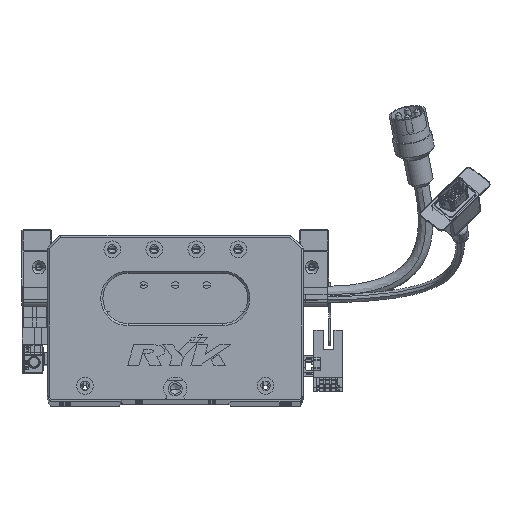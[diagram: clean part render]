
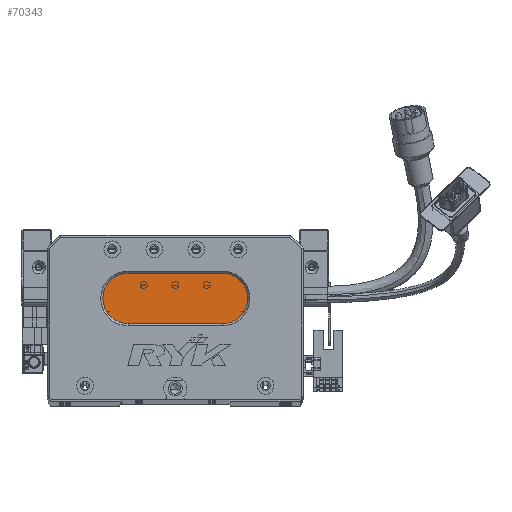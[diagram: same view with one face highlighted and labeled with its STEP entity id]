
A CAD part, top view. The second image highlights one B-rep face of the part: STEP entity #70343.
In plain terms, the highlighted planar face has unit normal (0, 0, 1) as drawn and (0, 0, -1) by its records, which use the part's own axes.
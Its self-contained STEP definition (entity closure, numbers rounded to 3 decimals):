
#372 = AXIS2_PLACEMENT_3D ( 'NONE', #36595, #36286, #43676 ) ;
#5378 = FACE_OUTER_BOUND ( 'NONE', #48646, .T. ) ;
#5990 = CARTESIAN_POINT ( 'NONE',  ( 83.5, 60., 13. ) ) ;
#7897 = EDGE_CURVE ( 'NONE', #16368, #72969, #19662, .T. ) ;
#9717 = VECTOR ( 'NONE', #91585, 1000. ) ;
#13111 = ORIENTED_EDGE ( 'NONE', *, *, #66643, .T. ) ;
#14487 = AXIS2_PLACEMENT_3D ( 'NONE', #49784, #87207, #16087 ) ;
#14586 = LINE ( 'NONE', #5990, #80923 ) ;
#16087 = DIRECTION ( 'NONE',  ( -1., 0., 0. ) ) ;
#16368 = VERTEX_POINT ( 'NONE', #78878 ) ;
#18345 = PLANE ( 'NONE',  #64117 ) ;
#19662 = CIRCLE ( 'NONE', #20383, 12. ) ;
#19888 = ORIENTED_EDGE ( 'NONE', *, *, #64601, .T. ) ;
#20383 = AXIS2_PLACEMENT_3D ( 'NONE', #27317, #75845, #27622 ) ;
#24936 = CARTESIAN_POINT ( 'NONE',  ( 38.5, 36., 13. ) ) ;
#25404 = VERTEX_POINT ( 'NONE', #78458 ) ;
#27317 = CARTESIAN_POINT ( 'NONE',  ( 38.5, 48., 13. ) ) ;
#27622 = DIRECTION ( 'NONE',  ( -1., 0., 0. ) ) ;
#28486 = LINE ( 'NONE', #70466, #9717 ) ;
#30345 = CIRCLE ( 'NONE', #14487, 12. ) ;
#32799 = DIRECTION ( 'NONE',  ( 0., 0., -1. ) ) ;
#32886 = EDGE_CURVE ( 'NONE', #34091, #85698, #28486, .T. ) ;
#34089 = DIRECTION ( 'NONE',  ( 1., 0., 0. ) ) ;
#34091 = VERTEX_POINT ( 'NONE', #86317 ) ;
#34537 = ORIENTED_EDGE ( 'NONE', *, *, #53978, .T. ) ;
#36286 = DIRECTION ( 'NONE',  ( 0., 0., -1. ) ) ;
#36595 = CARTESIAN_POINT ( 'NONE',  ( 83.5, 48., 13. ) ) ;
#43676 = DIRECTION ( 'NONE',  ( -1., 0., 0. ) ) ;
#48646 = EDGE_LOOP ( 'NONE', ( #34537, #80355, #19888, #55009, #13111 ) ) ;
#49784 = CARTESIAN_POINT ( 'NONE',  ( 38.5, 48., 13. ) ) ;
#53978 = EDGE_CURVE ( 'NONE', #25404, #34091, #83031, .T. ) ;
#55009 = ORIENTED_EDGE ( 'NONE', *, *, #7897, .T. ) ;
#56970 = CARTESIAN_POINT ( 'NONE',  ( 38.5, 60., 13. ) ) ;
#60367 = DIRECTION ( 'NONE',  ( -1., 0., 0. ) ) ;
#64117 = AXIS2_PLACEMENT_3D ( 'NONE', #67476, #32799, #60367 ) ;
#64601 = EDGE_CURVE ( 'NONE', #85698, #16368, #30345, .T. ) ;
#66643 = EDGE_CURVE ( 'NONE', #72969, #25404, #14586, .T. ) ;
#67476 = CARTESIAN_POINT ( 'NONE',  ( 83.5, 48., 13. ) ) ;
#70343 = ADVANCED_FACE ( 'NONE', ( #5378 ), #18345, .T. ) ;
#70466 = CARTESIAN_POINT ( 'NONE',  ( 83.5, 36., 13. ) ) ;
#72969 = VERTEX_POINT ( 'NONE', #56970 ) ;
#75845 = DIRECTION ( 'NONE',  ( 0., 0., -1. ) ) ;
#78458 = CARTESIAN_POINT ( 'NONE',  ( 83.5, 60., 13. ) ) ;
#78878 = CARTESIAN_POINT ( 'NONE',  ( 26.5, 48., 13. ) ) ;
#80355 = ORIENTED_EDGE ( 'NONE', *, *, #32886, .T. ) ;
#80923 = VECTOR ( 'NONE', #34089, 1000. ) ;
#83031 = CIRCLE ( 'NONE', #372, 12. ) ;
#85698 = VERTEX_POINT ( 'NONE', #24936 ) ;
#86317 = CARTESIAN_POINT ( 'NONE',  ( 83.5, 36., 13. ) ) ;
#87207 = DIRECTION ( 'NONE',  ( 0., 0., -1. ) ) ;
#91585 = DIRECTION ( 'NONE',  ( -1., 0., 0. ) ) ;
